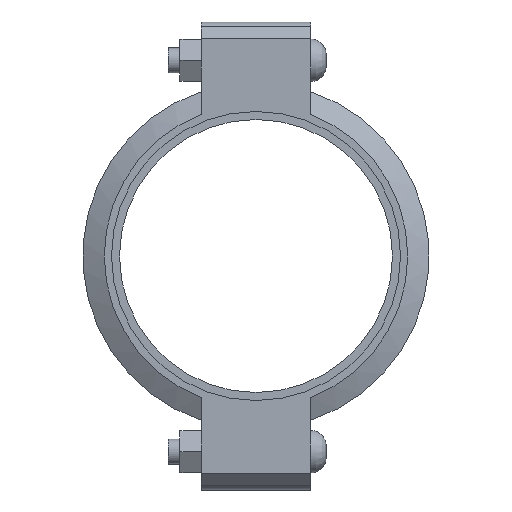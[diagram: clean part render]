
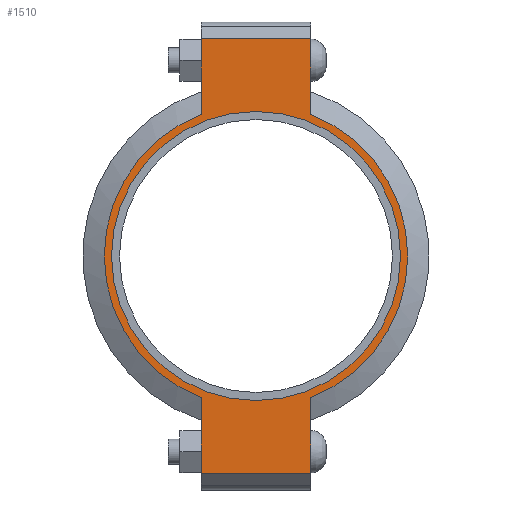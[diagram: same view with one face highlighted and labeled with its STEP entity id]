
A CAD part, left-side view. The second image highlights one B-rep face of the part: STEP entity #1510.
In plain terms, the highlighted planar face has unit normal (-1, 0, 0) as drawn and (0, 0, 1) by its records, which use the part's own axes.
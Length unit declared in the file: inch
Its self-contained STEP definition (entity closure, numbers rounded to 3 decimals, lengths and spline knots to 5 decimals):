
#134=LINE('',#2644,#227);
#142=LINE('',#2680,#235);
#149=LINE('',#2701,#242);
#158=LINE('',#2733,#251);
#159=LINE('',#2737,#252);
#160=LINE('',#2739,#253);
#227=VECTOR('',#2164,0.3937);
#235=VECTOR('',#2180,0.3937);
#242=VECTOR('',#2199,0.3937);
#251=VECTOR('',#2224,0.3937);
#252=VECTOR('',#2229,0.3937);
#253=VECTOR('',#2230,0.3937);
#309=FACE_BOUND('',#487,.T.);
#381=FACE_OUTER_BOUND('',#486,.T.);
#486=EDGE_LOOP('',(#1251,#1252,#1253,#1254,#1255,#1256,#1257,#1258));
#487=EDGE_LOOP('',(#1259));
#559=CIRCLE('',#1738,4.3125);
#585=CIRCLE('',#1797,4.53);
#586=CIRCLE('',#1798,4.53);
#651=VERTEX_POINT('',#2460);
#694=VERTEX_POINT('',#2641);
#695=VERTEX_POINT('',#2643);
#706=VERTEX_POINT('',#2675);
#707=VERTEX_POINT('',#2679);
#714=VERTEX_POINT('',#2698);
#715=VERTEX_POINT('',#2700);
#725=VERTEX_POINT('',#2736);
#726=VERTEX_POINT('',#2738);
#807=EDGE_CURVE('',#651,#651,#559,.T.);
#868=EDGE_CURVE('',#695,#694,#134,.T.);
#882=EDGE_CURVE('',#707,#706,#142,.T.);
#892=EDGE_CURVE('',#715,#714,#149,.T.);
#907=EDGE_CURVE('',#707,#694,#158,.T.);
#908=EDGE_CURVE('',#706,#715,#585,.T.);
#909=EDGE_CURVE('',#725,#714,#159,.T.);
#910=EDGE_CURVE('',#725,#726,#160,.T.);
#911=EDGE_CURVE('',#726,#695,#586,.T.);
#1251=ORIENTED_EDGE('',*,*,#907,.F.);
#1252=ORIENTED_EDGE('',*,*,#882,.T.);
#1253=ORIENTED_EDGE('',*,*,#908,.T.);
#1254=ORIENTED_EDGE('',*,*,#892,.T.);
#1255=ORIENTED_EDGE('',*,*,#909,.F.);
#1256=ORIENTED_EDGE('',*,*,#910,.T.);
#1257=ORIENTED_EDGE('',*,*,#911,.T.);
#1258=ORIENTED_EDGE('',*,*,#868,.T.);
#1259=ORIENTED_EDGE('',*,*,#807,.T.);
#1352=PLANE('',#1796);
#1510=ADVANCED_FACE('',(#381,#309),#1352,.T.);
#1738=AXIS2_PLACEMENT_3D('',#2462,#2040,#2041);
#1796=AXIS2_PLACEMENT_3D('',#2734,#2225,#2226);
#1797=AXIS2_PLACEMENT_3D('',#2735,#2227,#2228);
#1798=AXIS2_PLACEMENT_3D('',#2740,#2231,#2232);
#2040=DIRECTION('center_axis',(0.,0.,-1.));
#2041=DIRECTION('ref_axis',(1.,0.,0.));
#2164=DIRECTION('',(1.,0.,0.));
#2180=DIRECTION('',(-1.,0.,0.));
#2199=DIRECTION('',(-1.,0.,0.));
#2224=DIRECTION('',(0.,-1.,0.));
#2225=DIRECTION('center_axis',(0.,0.,1.));
#2226=DIRECTION('ref_axis',(-1.,0.,0.));
#2227=DIRECTION('center_axis',(0.,0.,1.));
#2228=DIRECTION('ref_axis',(1.,0.,0.));
#2229=DIRECTION('',(0.,1.,0.));
#2230=DIRECTION('',(1.,0.,0.));
#2231=DIRECTION('center_axis',(0.,0.,1.));
#2232=DIRECTION('ref_axis',(1.,0.,0.));
#2460=CARTESIAN_POINT('',(-4.3125,0.,1.16));
#2462=CARTESIAN_POINT('Origin',(0.,0.,1.16));
#2641=CARTESIAN_POINT('',(6.485,-1.63,1.16));
#2643=CARTESIAN_POINT('',(4.22658,-1.63,1.16));
#2644=CARTESIAN_POINT('',(6.985,-1.63,1.16));
#2675=CARTESIAN_POINT('',(4.22658,1.63,1.16));
#2679=CARTESIAN_POINT('',(6.485,1.63,1.16));
#2680=CARTESIAN_POINT('',(-6.985,1.63,1.16));
#2698=CARTESIAN_POINT('',(-6.485,1.63,1.16));
#2700=CARTESIAN_POINT('',(-4.22658,1.63,1.16));
#2701=CARTESIAN_POINT('',(-6.985,1.63,1.16));
#2733=CARTESIAN_POINT('',(6.485,-0.815,1.16));
#2734=CARTESIAN_POINT('Origin',(0.,0.,
1.16));
#2735=CARTESIAN_POINT('Origin',(0.,0.,1.16));
#2736=CARTESIAN_POINT('',(-6.485,-1.63,1.16));
#2737=CARTESIAN_POINT('',(-6.485,0.815,1.16));
#2738=CARTESIAN_POINT('',(-4.22658,-1.63,1.16));
#2739=CARTESIAN_POINT('',(6.985,-1.63,1.16));
#2740=CARTESIAN_POINT('Origin',(0.,0.,1.16));
